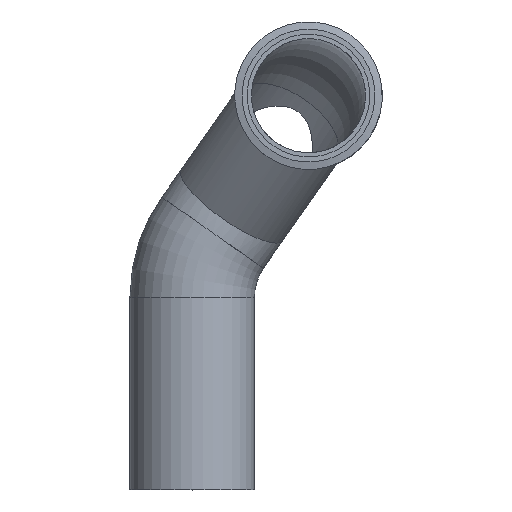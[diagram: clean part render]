
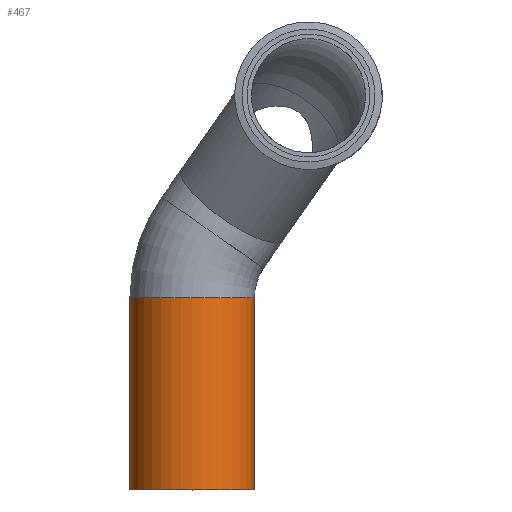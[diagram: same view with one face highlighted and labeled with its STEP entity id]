
A CAD part, top view. The second image highlights one B-rep face of the part: STEP entity #467.
In plain terms, the highlighted cylindrical face has radius 55.2 mm (diameter 110.4 mm), a full revolution.
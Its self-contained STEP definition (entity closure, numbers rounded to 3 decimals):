
#56=CYLINDRICAL_SURFACE($,#515,55.2);
#73=FACE_BOUND($,#149,.T.);
#118=FACE_OUTER_BOUND($,#148,.T.);
#148=EDGE_LOOP($,(#333));
#149=EDGE_LOOP($,(#334));
#222=CIRCLE($,#516,55.2);
#223=CIRCLE($,#517,55.2);
#255=VERTEX_POINT($,#782);
#256=VERTEX_POINT($,#784);
#293=EDGE_CURVE($,#255,#255,#222,.T.);
#294=EDGE_CURVE($,#256,#256,#223,.T.);
#333=ORIENTED_EDGE($,*,*,#293,.F.);
#334=ORIENTED_EDGE($,*,*,#294,.T.);
#467=ADVANCED_FACE($,(#118,#73),#56,.T.);
#515=AXIS2_PLACEMENT_3D($,#781,#607,#608);
#516=AXIS2_PLACEMENT_3D($,#783,#609,#610);
#517=AXIS2_PLACEMENT_3D($,#785,#611,#612);
#607=DIRECTION('center_axis',(0.,1.,0.));
#608=DIRECTION('ref_axis',(1.,0.,0.));
#609=DIRECTION('center_axis',(0.,-1.,0.));
#610=DIRECTION('ref_axis',(1.,0.,0.));
#611=DIRECTION('center_axis',(0.,-1.,0.));
#612=DIRECTION('ref_axis',(1.,0.,0.));
#781=CARTESIAN_POINT('Origin',(0.,0.,0.));
#782=CARTESIAN_POINT('',(-55.2,0.,0.));
#783=CARTESIAN_POINT('Origin',(0.,0.,0.));
#784=CARTESIAN_POINT('',(-55.2,170.5,0.));
#785=CARTESIAN_POINT('Origin',(0.,170.5,0.));
